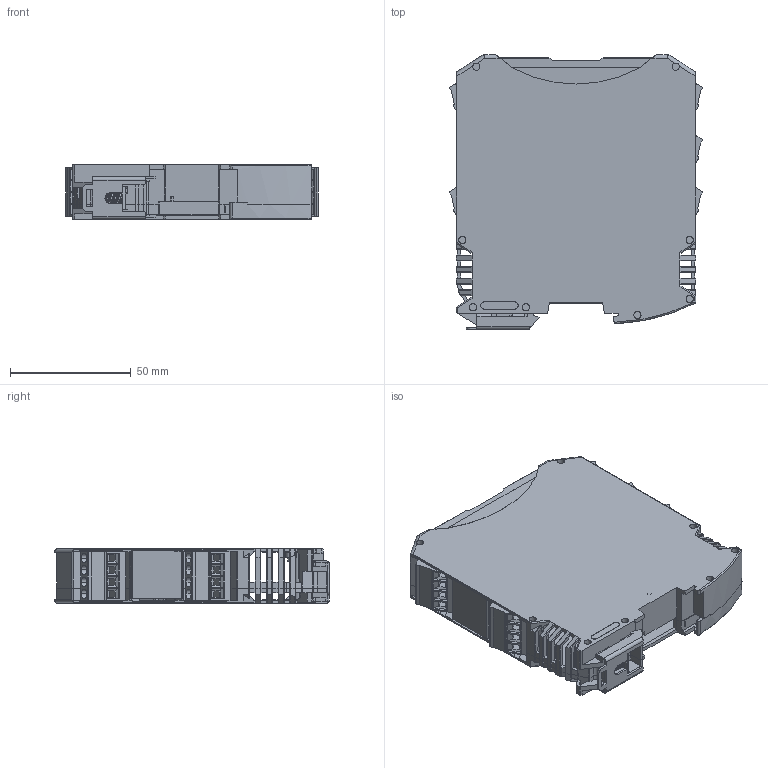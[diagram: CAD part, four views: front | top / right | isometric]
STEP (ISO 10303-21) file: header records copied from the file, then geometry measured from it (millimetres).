
FILE_DESCRIPTION (( 'STEP AP214' ), '1' );
FILE_NAME ('NC86.STEP', '2024-06-19T08:37:23', ( '' ), ( '' ), 'SwSTEP 2.0', 'SolidWorks 2024', '' );
FILE_SCHEMA (( 'AUTOMOTIVE_DESIGN' ));
Length unit declared in the file: millimetre
Products named in the file (13): 2200723_PART3; 2908472; 2908485_PART2; 2908472_PART2; 2713939_PART2; 2908485; 2713939_PART6; 2200723; 2713939_PART1; NC86; 2713939_PART5; 2713939_PART4; 2713939
Assembly tree (15 placements, depth 3):
  NC86
    2713939
      2713939_PART1
      2713939_PART2
      2713939_PART4
      2713939_PART5
      2713939_PART6
    2908472  x3
      2908472_PART2
    2908485  x2
      2908485_PART2
    2200723
      2200723_PART3
Bounding box: 104.58 x 113.65 x 22.6 mm (x, y, z)
Volume: 57084.1 mm3; surface area: 78585.4 mm2
Topology: 11 solids, 11 shells, 3040 faces, 8230 edges, 5353 vertices
Faces by surface type: plane 2245, cylinder 746, cone 39, bspline 8, torus 2
Entity records: 81037 total; most frequent: CARTESIAN_POINT 22678, ORIENTED_EDGE 12350, DIRECTION 11699, EDGE_CURVE 6175, LINE 4767, VECTOR 4767, VERTEX_POINT 4027, AXIS2_PLACEMENT_3D 3466
